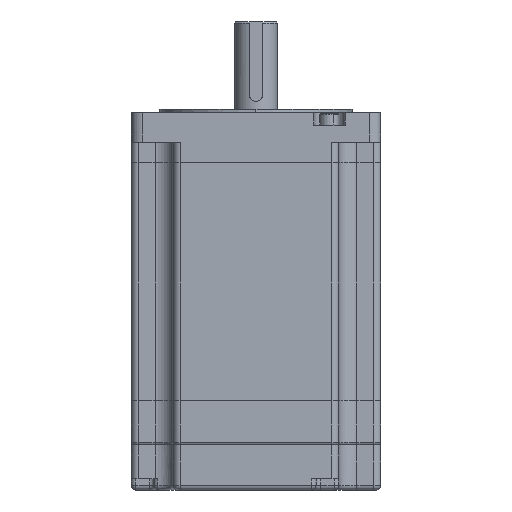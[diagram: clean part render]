
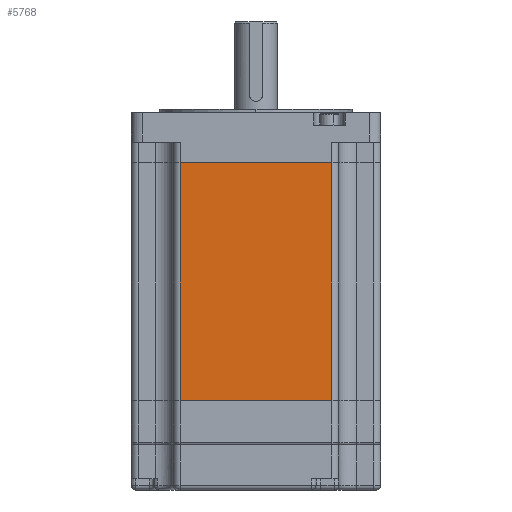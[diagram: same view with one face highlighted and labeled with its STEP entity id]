
A CAD part, left-side view. The second image highlights one B-rep face of the part: STEP entity #5768.
In plain terms, the highlighted planar face has unit normal (-1, 0, 0).
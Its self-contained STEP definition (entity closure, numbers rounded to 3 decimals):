
#399 = LINE ( 'NONE', #2139, #11855 ) ;
#1001 = CARTESIAN_POINT ( 'NONE',  ( -55., -55., 105. ) ) ;
#1088 = LINE ( 'NONE', #7618, #12090 ) ;
#1703 = AXIS2_PLACEMENT_3D ( 'NONE', #17775, #17848, #9262 ) ;
#1765 = EDGE_CURVE ( 'NONE', #5295, #10268, #1088, .T. ) ;
#1983 = DIRECTION ( 'NONE',  ( 0., -1., 0. ) ) ;
#2139 = CARTESIAN_POINT ( 'NONE',  ( -55., 33.5, 105. ) ) ;
#2420 = DIRECTION ( 'NONE',  ( 0., -1., 0. ) ) ;
#2853 = CARTESIAN_POINT ( 'NONE',  ( -55., -33.5, 105. ) ) ;
#3090 = ORIENTED_EDGE ( 'NONE', *, *, #10738, .T. ) ;
#3740 = VECTOR ( 'NONE', #15043, 1000. ) ;
#4474 = EDGE_CURVE ( 'NONE', #6982, #5295, #399, .T. ) ;
#5018 = CARTESIAN_POINT ( 'NONE',  ( -55., -33.5, 105. ) ) ;
#5093 = VECTOR ( 'NONE', #2420, 1000. ) ;
#5295 = VERTEX_POINT ( 'NONE', #5623 ) ;
#5439 = VERTEX_POINT ( 'NONE', #2853 ) ;
#5606 = EDGE_LOOP ( 'NONE', ( #18287, #3090, #7150, #10535 ) ) ;
#5623 = CARTESIAN_POINT ( 'NONE',  ( -55., 33.5, 0. ) ) ;
#5768 = ADVANCED_FACE ( 'NONE', ( #15186 ), #16380, .F. ) ;
#6982 = VERTEX_POINT ( 'NONE', #16615 ) ;
#7150 = ORIENTED_EDGE ( 'NONE', *, *, #13919, .F. ) ;
#7568 = LINE ( 'NONE', #5018, #3740 ) ;
#7618 = CARTESIAN_POINT ( 'NONE',  ( -55., -55., 0. ) ) ;
#7785 = DIRECTION ( 'NONE',  ( 0., 0., -1. ) ) ;
#8929 = LINE ( 'NONE', #1001, #5093 ) ;
#9262 = DIRECTION ( 'NONE',  ( 0., 0., -1. ) ) ;
#10268 = VERTEX_POINT ( 'NONE', #15473 ) ;
#10535 = ORIENTED_EDGE ( 'NONE', *, *, #4474, .T. ) ;
#10738 = EDGE_CURVE ( 'NONE', #10268, #5439, #7568, .T. ) ;
#11855 = VECTOR ( 'NONE', #7785, 1000. ) ;
#12090 = VECTOR ( 'NONE', #1983, 1000. ) ;
#13919 = EDGE_CURVE ( 'NONE', #6982, #5439, #8929, .T. ) ;
#15043 = DIRECTION ( 'NONE',  ( 0., 0., 1. ) ) ;
#15186 = FACE_OUTER_BOUND ( 'NONE', #5606, .T. ) ;
#15473 = CARTESIAN_POINT ( 'NONE',  ( -55., -33.5, 0. ) ) ;
#16380 = PLANE ( 'NONE',  #1703 ) ;
#16615 = CARTESIAN_POINT ( 'NONE',  ( -55., 33.5, 105. ) ) ;
#17775 = CARTESIAN_POINT ( 'NONE',  ( -55., -55., 105. ) ) ;
#17848 = DIRECTION ( 'NONE',  ( 1., 0., 0. ) ) ;
#18287 = ORIENTED_EDGE ( 'NONE', *, *, #1765, .T. ) ;
